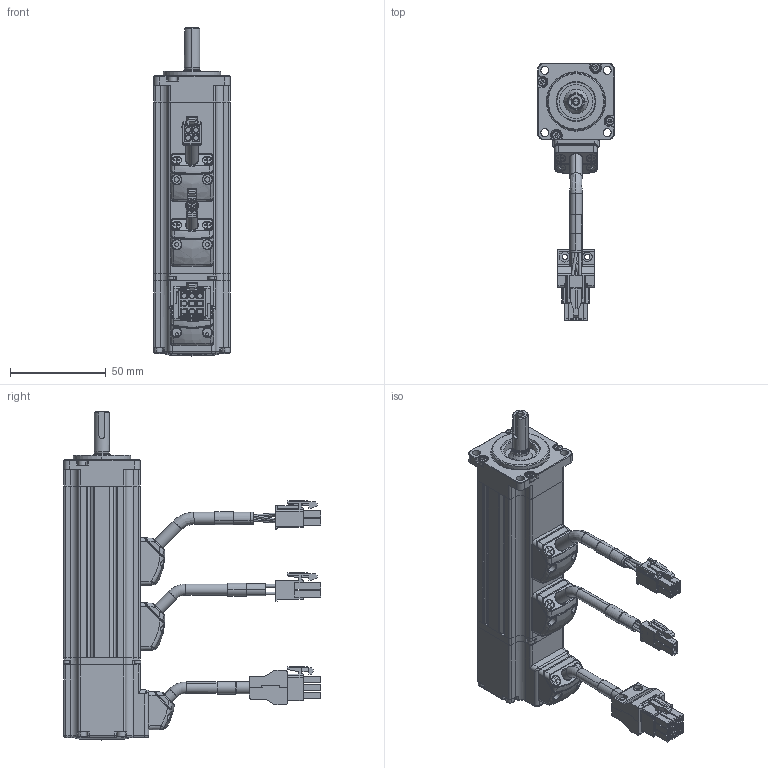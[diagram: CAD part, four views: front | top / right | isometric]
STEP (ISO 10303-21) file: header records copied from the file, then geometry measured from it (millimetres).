
FILE_DESCRIPTION (( 'STEP AP203' ), '1' );
FILE_NAME ('SM0402XE4-KCD-BNV.STEP', '2019-08-15T01:53:51', ( '' ), ( '' ), 'SwSTEP 2.0', 'SolidWorks 2014', '' );
FILE_SCHEMA (( 'CONFIG_CONTROL_DESIGN' ));
Length unit declared in the file: millimetre
Products named in the file (1): SM0402XE4-KCD-BNV
Bounding box: 40.01 x 134.75 x 171.5 mm (x, y, z)
Surface area: 47619.7 mm2 (no closed solid volume)
Topology: 0 solids, 50 shells, 1231 faces, 3747 edges, 2506 vertices
Faces by surface type: plane 582, cylinder 377, bspline 96, cone 94, torus 62, sphere 20
Entity records: 46771 total; most frequent: CARTESIAN_POINT 13923, DIRECTION 6805, ORIENTED_EDGE 6357, EDGE_CURVE 3723, VERTEX_POINT 2506, VECTOR 2293, LINE 2293, AXIS2_PLACEMENT_3D 2256
